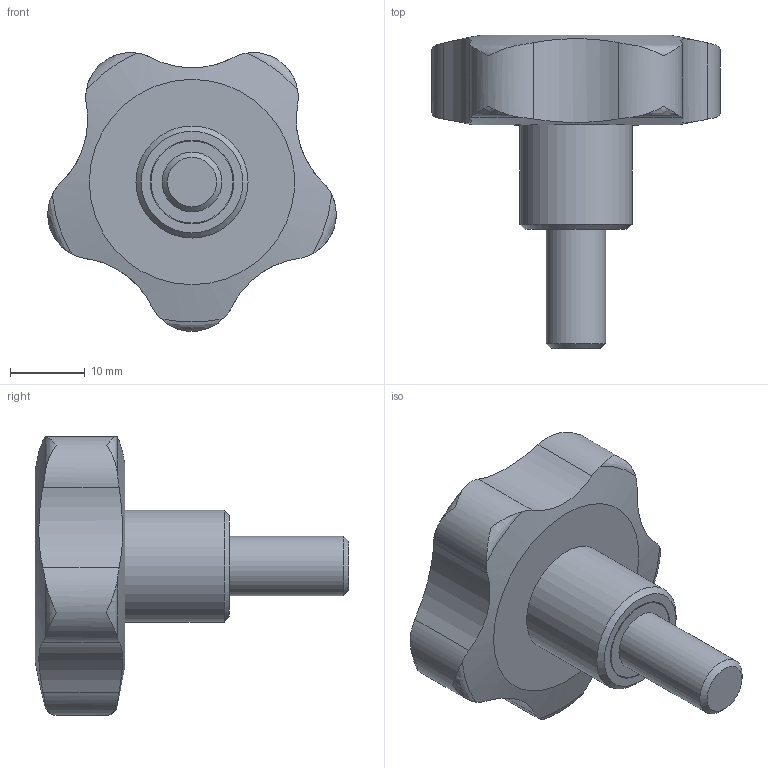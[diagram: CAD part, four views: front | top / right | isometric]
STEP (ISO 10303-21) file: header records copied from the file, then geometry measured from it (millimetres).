
FILE_DESCRIPTION( ( 'STEP AP203' ), '1' );
FILE_NAME( 'C:/Temp/Ganter_Step_05_03_2020/data/2_2/gn_5337_4/gn_5337_4_s/Star knob GN 5337.4-40-M8-16.stp', '2020-03-05T12:09:45', ( 'License CC BY-ND 4.0' ), ( 'CADENAS' ), ' ', 'PARTsolutions', ' ' );
FILE_SCHEMA( ( 'CONFIG_CONTROL_DESIGN' ) );
Length unit declared in the file: millimetre
Products named in the file (1): _Star knob GN 5337.4-40-M8-16
Bounding box: 38.62 x 42 x 37.33 mm (x, y, z)
Volume: 14276.7 mm3; surface area: 4253.4 mm2
Topology: 1 solids, 1 shells, 34 faces, 95 edges, 66 vertices
Faces by surface type: cylinder 14, torus 10, plane 5, cone 3, bspline 1, sphere 1
Full cylindrical faces by diameter (mm): 8 x1, 11 x1, 11.2 x1, 15 x1
Entity records: 1467 total; most frequent: CARTESIAN_POINT 679, ORIENTED_EDGE 164, DIRECTION 122, EDGE_CURVE 82, VERTEX_POINT 63, AXIS2_PLACEMENT_3D 56, B_SPLINE_CURVE_WITH_KNOTS 50, EDGE_LOOP 46
